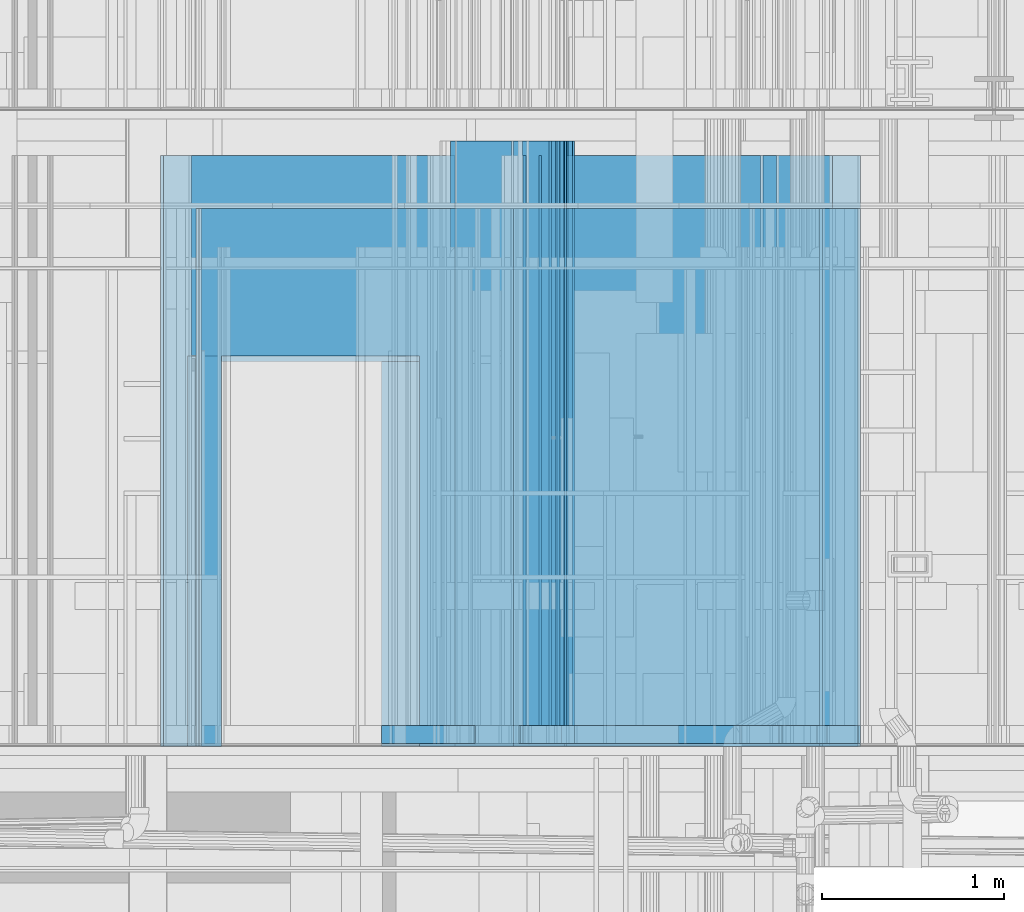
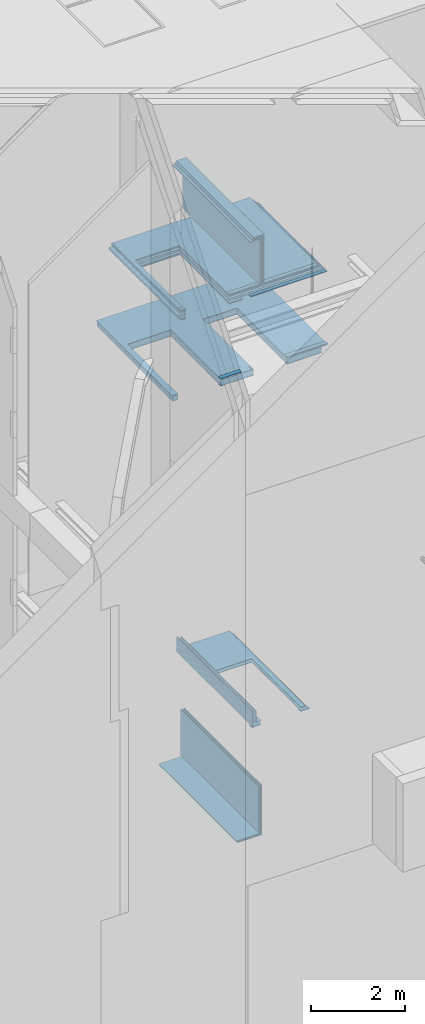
# One storey, part 68 of 583: 39 building element parts, 7 openings, 8 elements without a shape of their own.
"""IFC2X3 building model written with IfcOpenShell, lengths in metres."""

from ifc_helpers import new_model, entity, si_unit, converted_unit, derived_unit, money_unit, direction, frame, frame_2d, origin_with_axes, place, context, subcontext, project, spatial, polyline, rectangle, outline, extrude, material, type_object, element, aggregate, save


model = new_model("IFC2X3")

# Units and contexts
model_context = context("Model", 3, precision=1e-05, world=origin_with_axes(), true_north=direction((0.0, 1.0)))
body_context = subcontext(model_context, "Body", "Model", "MODEL_VIEW", scale=1.0)
ifc_project = project(units=[si_unit("LENGTHUNIT", "METRE"), si_unit("AREAUNIT", "SQUARE_METRE"), si_unit("VOLUMEUNIT", "CUBIC_METRE"), si_unit("ABSORBEDDOSEUNIT", "GRAY"), si_unit("AMOUNTOFSUBSTANCEUNIT", "MOLE"), si_unit("DOSEEQUIVALENTUNIT", "SIEVERT"), si_unit("ELECTRICCAPACITANCEUNIT", "FARAD"), si_unit("ELECTRICCHARGEUNIT", "COULOMB"), si_unit("ELECTRICCONDUCTANCEUNIT", "SIEMENS"), si_unit("ELECTRICCURRENTUNIT", "AMPERE"), si_unit("ELECTRICRESISTANCEUNIT", "OHM"), si_unit("ELECTRICVOLTAGEUNIT", "VOLT"), si_unit("ENERGYUNIT", "JOULE"), si_unit("FORCEUNIT", "NEWTON"), si_unit("FREQUENCYUNIT", "HERTZ"), si_unit("ILLUMINANCEUNIT", "LUX"), si_unit("INDUCTANCEUNIT", "HENRY"), si_unit("LUMINOUSFLUXUNIT", "LUMEN"), si_unit("LUMINOUSINTENSITYUNIT", "CANDELA"), si_unit("MAGNETICFLUXDENSITYUNIT", "TESLA"), si_unit("MAGNETICFLUXUNIT", "WEBER"), si_unit("MASSUNIT", "GRAM"), converted_unit("PLANEANGLEUNIT", "degree", entity("IfcReal", 0.0174532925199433), si_unit("PLANEANGLEUNIT", "RADIAN"), dimensions=[0, 0, 0, 0, 0, 0, 0]), si_unit("POWERUNIT", "WATT"), si_unit("PRESSUREUNIT", "PASCAL"), si_unit("RADIOACTIVITYUNIT", "BECQUEREL"), si_unit("SOLIDANGLEUNIT", "STERADIAN"), si_unit("THERMODYNAMICTEMPERATUREUNIT", "KELVIN"), si_unit("TIMEUNIT", "SECOND"), derived_unit("ACCELERATIONUNIT", [(si_unit("LENGTHUNIT", "METRE"), 1), (si_unit("TIMEUNIT", "SECOND"), -2)]), derived_unit("ANGULARVELOCITYUNIT", [(converted_unit("PLANEANGLEUNIT", "degree", entity("IfcReal", 0.0174532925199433), si_unit("PLANEANGLEUNIT", "RADIAN"), dimensions=[0, 0, 0, 0, 0, 0, 0]), 1), (si_unit("TIMEUNIT", "SECOND"), -1)]), derived_unit("CURVATUREUNIT", [(converted_unit("PLANEANGLEUNIT", "degree", entity("IfcReal", 0.0174532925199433), si_unit("PLANEANGLEUNIT", "RADIAN"), dimensions=[0, 0, 0, 0, 0, 0, 0]), 1), (si_unit("LENGTHUNIT", "METRE"), -1)]), derived_unit("DYNAMICVISCOSITYUNIT", [(si_unit("PRESSUREUNIT", "PASCAL"), 1), (si_unit("TIMEUNIT", "SECOND"), 1)]), derived_unit("HEATFLUXDENSITYUNIT", [(si_unit("POWERUNIT", "WATT"), 1), (si_unit("LENGTHUNIT", "METRE"), -2)]), derived_unit("HEATINGVALUEUNIT", [(si_unit("ENERGYUNIT", "JOULE"), 1), (si_unit("MASSUNIT", "GRAM"), -1)]), derived_unit("INTEGERCOUNTRATEUNIT", [(si_unit("TIMEUNIT", "SECOND"), -1)]), derived_unit("IONCONCENTRATIONUNIT", [(si_unit("MASSUNIT", "GRAM"), 1), (si_unit("VOLUMEUNIT", "CUBIC_METRE"), -1)]), derived_unit("ISOTHERMALMOISTURECAPACITYUNIT", [(si_unit("VOLUMEUNIT", "CUBIC_METRE"), 1), (si_unit("MASSUNIT", "GRAM"), -1)]), derived_unit("KINEMATICVISCOSITYUNIT", [(si_unit("AREAUNIT", "SQUARE_METRE"), 1), (si_unit("TIMEUNIT", "SECOND"), -1)]), derived_unit("LINEARFORCEUNIT", [(si_unit("FORCEUNIT", "NEWTON"), 1), (si_unit("LENGTHUNIT", "METRE"), -1)]), derived_unit("LINEARMOMENTUNIT", [(si_unit("FORCEUNIT", "NEWTON"), 1), (si_unit("LENGTHUNIT", "METRE"), -1)]), derived_unit("LINEARSTIFFNESSUNIT", [(si_unit("FORCEUNIT", "NEWTON"), 1), (si_unit("LENGTHUNIT", "METRE"), -1)]), derived_unit("LINEARVELOCITYUNIT", [(si_unit("LENGTHUNIT", "METRE"), 1), (si_unit("TIMEUNIT", "SECOND"), -1)]), derived_unit("LUMINOUSINTENSITYDISTRIBUTIONUNIT", [(si_unit("LUMINOUSINTENSITYUNIT", "CANDELA"), 1), (si_unit("LUMINOUSFLUXUNIT", "LUMEN"), -1)]), derived_unit("MASSDENSITYUNIT", [(si_unit("MASSUNIT", "GRAM"), 1), (si_unit("VOLUMEUNIT", "CUBIC_METRE"), -1)]), derived_unit("MASSFLOWRATEUNIT", [(si_unit("MASSUNIT", "GRAM"), 1), (si_unit("TIMEUNIT", "SECOND"), -1)]), derived_unit("MASSPERLENGTHUNIT", [(si_unit("MASSUNIT", "GRAM"), 1), (si_unit("LENGTHUNIT", "METRE"), -1)]), derived_unit("MODULUSOFELASTICITYUNIT", [(si_unit("FORCEUNIT", "NEWTON"), 1), (si_unit("AREAUNIT", "SQUARE_METRE"), -1)]), derived_unit("MODULUSOFLINEARSUBGRADEREACTIONUNIT", [(si_unit("FORCEUNIT", "NEWTON"), 1), (si_unit("LENGTHUNIT", "METRE"), -2)]), derived_unit("MODULUSOFROTATIONALSUBGRADEREACTIONUNIT", [(si_unit("FORCEUNIT", "NEWTON"), 1), (si_unit("LENGTHUNIT", "METRE"), 1)]), derived_unit("MODULUSOFSUBGRADEREACTIONUNIT", [(si_unit("FORCEUNIT", "NEWTON"), 1), (si_unit("VOLUMEUNIT", "CUBIC_METRE"), -1)]), derived_unit("MOISTUREDIFFUSIVITYUNIT", [(si_unit("VOLUMEUNIT", "CUBIC_METRE"), 1), (si_unit("TIMEUNIT", "SECOND"), -1)]), derived_unit("MOLECULARWEIGHTUNIT", [(si_unit("MASSUNIT", "GRAM"), 1), (si_unit("AMOUNTOFSUBSTANCEUNIT", "MOLE"), -1)]), derived_unit("PLANARFORCEUNIT", [(si_unit("FORCEUNIT", "NEWTON"), 1), (si_unit("LENGTHUNIT", "METRE"), -2)]), derived_unit("ROTATIONALFREQUENCYUNIT", [(si_unit("TIMEUNIT", "SECOND"), -1)]), derived_unit("ROTATIONALMASSUNIT", [(si_unit("MASSUNIT", "GRAM"), 1), (si_unit("LENGTHUNIT", "METRE"), 2)]), derived_unit("ROTATIONALSTIFFNESSUNIT", [(si_unit("FORCEUNIT", "NEWTON"), 1), (si_unit("LENGTHUNIT", "METRE"), 1), (converted_unit("PLANEANGLEUNIT", "degree", entity("IfcReal", 0.0174532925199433), si_unit("PLANEANGLEUNIT", "RADIAN"), dimensions=[0, 0, 0, 0, 0, 0, 0]), -1)]), derived_unit("SECTIONAREAINTEGRALUNIT", [(si_unit("LENGTHUNIT", "METRE"), 5)]), derived_unit("SECTIONMODULUSUNIT", [(si_unit("LENGTHUNIT", "METRE"), 3)]), derived_unit("SHEARMODULUSUNIT", [(si_unit("FORCEUNIT", "NEWTON"), 1), (si_unit("AREAUNIT", "SQUARE_METRE"), -1)]), derived_unit("SOUNDPOWERUNIT", [(si_unit("ENERGYUNIT", "JOULE"), 1), (si_unit("TIMEUNIT", "SECOND"), -1)]), derived_unit("SPECIFICHEATCAPACITYUNIT", [(si_unit("FORCEUNIT", "NEWTON"), 1), (si_unit("MASSUNIT", "GRAM"), -1), (si_unit("THERMODYNAMICTEMPERATUREUNIT", "KELVIN"), -1)]), derived_unit("TEMPERATUREGRADIENTUNIT", [(si_unit("THERMODYNAMICTEMPERATUREUNIT", "KELVIN"), 1), (si_unit("LENGTHUNIT", "METRE"), -1)]), derived_unit("THERMALADMITTANCEUNIT", [(si_unit("POWERUNIT", "WATT"), 1), (si_unit("AREAUNIT", "SQUARE_METRE"), -1), (si_unit("THERMODYNAMICTEMPERATUREUNIT", "KELVIN"), -1)]), derived_unit("THERMALCONDUCTANCEUNIT", [(si_unit("POWERUNIT", "WATT"), 1), (si_unit("LENGTHUNIT", "METRE"), -1), (si_unit("THERMODYNAMICTEMPERATUREUNIT", "KELVIN"), -1)]), derived_unit("THERMALEXPANSIONCOEFFICIENTUNIT", [(si_unit("THERMODYNAMICTEMPERATUREUNIT", "KELVIN"), -1)]), derived_unit("THERMALRESISTANCEUNIT", [(si_unit("AREAUNIT", "SQUARE_METRE"), 1), (si_unit("POWERUNIT", "WATT"), -1)]), derived_unit("THERMALTRANSMITTANCEUNIT", [(si_unit("POWERUNIT", "WATT"), 1), (si_unit("AREAUNIT", "SQUARE_METRE"), -1), (si_unit("THERMODYNAMICTEMPERATUREUNIT", "KELVIN"), -1)]), derived_unit("TORQUEUNIT", [(si_unit("FORCEUNIT", "NEWTON"), 1), (si_unit("LENGTHUNIT", "METRE"), 1)]), derived_unit("VAPORPERMEABILITYUNIT", [(si_unit("MASSUNIT", "GRAM"), 1), (si_unit("TIMEUNIT", "SECOND"), -1)]), derived_unit("VOLUMETRICFLOWRATEUNIT", [(si_unit("VOLUMEUNIT", "CUBIC_METRE"), 1), (si_unit("TIMEUNIT", "SECOND"), -1)]), derived_unit("WARPINGCONSTANTUNIT", [(si_unit("LENGTHUNIT", "METRE"), 6)]), derived_unit("WARPINGMOMENTUNIT", [(si_unit("FORCEUNIT", "NEWTON"), 1), (si_unit("LENGTHUNIT", "METRE"), 2)]), money_unit("GBP")], contexts=[model_context])

# Site, building, storey
site_placement = place(None, origin_with_axes())
site = spatial("IfcSite", under=ifc_project, at=site_placement, Name="Site", CompositionType="ELEMENT")
building_placement = place(site_placement, origin_with_axes())
building = spatial("IfcBuilding", under=site, at=building_placement, Name="Building01", CompositionType="ELEMENT")
storey_placement = place(building_placement, frame((0.0, 0.0, 20.78), z_axis=(0.0, 0.0, 1.0), x_axis=(1.0, 0.0, 0.0)))
storey = spatial("IfcBuildingStorey", under=building, at=storey_placement, Name="RL", CompositionType="ELEMENT", Elevation=20.78)

# Wall, openings, building element parts
wall_type_1 = type_object("IfcWallType", Name="SHE_A-Walls_Type03a_BlockworkWall_170mm", PredefinedType="NOTDEFINED")
wall_1_placement = place(storey_placement, frame((8.665, 5.15, -2.935), z_axis=(0.0, 1.0, 0.0), x_axis=(-1.0, 0.0, 0.0)))
wall_1 = element("IfcWall", 1, at=wall_1_placement, inside=storey, type_object=wall_type_1, Name="4B", ObjectType="SHE_A-Walls_Type03a_BlockworkWall_170mm")
opening_1_placement = place(wall_1_placement, frame((0.88612, -0.095, 0.0), z_axis=(0.0, 0.0, 1.0), x_axis=(1.0, 0.0, 0.0)))
element("IfcOpeningElement", 2, at=opening_1_placement, cuts=wall_1, Name="Opening", ObjectType="Opening", context=body_context, shape_type="SweptSolid", body=[
    extrude(rectangle(XDim=0.75, YDim=2.142, at=frame_2d((0.375, 1.071), x_axis=(-1.0, 0.0))), frame((0.0, 5.507577, 0.0), z_axis=(0.0, -1.0, 0.0), x_axis=(1.0, 0.0, 0.0)), (0.0, 0.0, 1.0), 11.015153),
])
opening_2_placement = place(wall_1_placement, frame((2.554262, -0.095, 0.0), z_axis=(0.0, 0.0, 1.0), x_axis=(1.0, 0.0, 0.0)))
element("IfcOpeningElement", 3, at=opening_2_placement, cuts=wall_1, Name="Opening", ObjectType="Opening", context=body_context, shape_type="SweptSolid", body=[
    extrude(rectangle(XDim=0.984, YDim=2.142, at=frame_2d((0.492, 1.071), x_axis=(-1.0, 0.0))), frame((0.0, 5.507577, 0.0), z_axis=(0.0, -1.0, 0.0), x_axis=(1.0, 0.0, 0.0)), (0.0, 0.0, 1.0), 11.015153),
])
opening_3_placement = place(wall_1_placement, frame((2.473, -0.015, 0.0), z_axis=(0.0, 0.0, 1.0), x_axis=(1.0, 0.0, 0.0)))
element("IfcOpeningElement", 4, at=opening_3_placement, cuts=wall_1, Name="Opening", ObjectType="Opening", context=body_context, shape_type="SweptSolid", body=[
    extrude(rectangle(XDim=0.984, YDim=2.142, at=frame_2d((0.492, 1.071), x_axis=(-1.0, 0.0))), frame((0.0, 5.387814, 0.0), z_axis=(0.0, -1.0, 0.0), x_axis=(1.0, 0.0, 0.0)), (0.0, 0.0, 1.0), 10.775627),
])
opening_4_placement = place(wall_1_placement, frame((0.84412, -0.015, 0.0), z_axis=(0.0, 0.0, 1.0), x_axis=(1.0, 0.0, 0.0)))
element("IfcOpeningElement", 5, at=opening_4_placement, cuts=wall_1, Name="Opening", ObjectType="Opening", context=body_context, shape_type="SweptSolid", body=[
    extrude(rectangle(XDim=2.142, YDim=0.834, at=frame_2d((0.417, 1.071), x_axis=(0.0, -1.0))), frame((0.0, 5.387814, 0.0), z_axis=(0.0, -1.0, 0.0), x_axis=(1.0, 0.0, 0.0)), (0.0, 0.0, 1.0), 10.775627),
])
ifc_material_1 = material(Name="A_BSUK_WallsInternal_Block")
placement_1 = place(wall_1_placement, origin_with_axes())
building_element_part_1 = element("IfcBuildingElementPart", 6, at=placement_1, material=ifc_material_1, Name="1", context=body_context, shape_type="SweptSolid", body=[
    extrude(rectangle(XDim=3.67, YDim=0.14, at=frame_2d((1.835, 0.07), x_axis=(-1.0, 0.0))), origin_with_axes(), (0.0, 0.0, 1.0), 3.24),
])
ifc_material_2 = material(Name="A_BSUK_Walls_Timber")
building_element_part_2 = element("IfcBuildingElementPart", 7, at=placement_1, material=ifc_material_2, Name="2", context=body_context, shape_type="SweptSolid", body=[
    extrude(rectangle(XDim=1.89, YDim=0.015, at=frame_2d((0.775, 0.1625), x_axis=(-1.0, 0.0))), frame((0.0, 0.0, 0.015), z_axis=(0.0, 0.0, 1.0), x_axis=(1.0, 0.0, 0.0)), (0.0, 0.0, 1.0), 0.1),
])
ifc_material_3 = material(Name="A_BSUK_WallInternal_Finishes_Plaster")
building_element_part_3 = element("IfcBuildingElementPart", 8, at=placement_1, material=ifc_material_3, Name="3", context=body_context, shape_type="SweptSolid", body=[
    extrude(rectangle(XDim=3.84, YDim=0.015, at=frame_2d((1.765, 0.1475), x_axis=(-1.0, 0.0))), origin_with_axes(), (0.0, 0.0, 1.0), 3.24),
])
ifc_material_4 = material(Name="A_BSUK_WallInternal_Finishes_Plasterboard")
building_element_part_4 = element("IfcBuildingElementPart", 9, at=placement_1, material=ifc_material_4, Name="4", context=body_context, shape_type="SweptSolid", body=[
    extrude(outline(polyline([(2.205, 0.0), (0.0, 0.0), (0.0, -0.015), (2.19, -0.015), (2.205, 0.0)])), origin_with_axes(), (0.0, 0.0, 1.0), 3.24),
])
building_element_part_5 = element("IfcBuildingElementPart", 10, at=placement_1, material=ifc_material_2, Name="5", context=body_context, shape_type="SweptSolid", body=[
    extrude(outline(polyline([(2.205, -0.015), (0.03, -0.015), (0.03, -0.03), (2.19, -0.03), (2.205, -0.015)])), frame((0.0, 0.0, 0.015), z_axis=(0.0, 0.0, 1.0), x_axis=(1.0, 0.0, 0.0)), (0.0, 0.0, 1.0), 0.1),
])
building_element_part_6 = element("IfcBuildingElementPart", 11, at=placement_1, material=ifc_material_4, Name="6", context=body_context, shape_type="SweptSolid", body=[
    extrude(outline(polyline([(3.515, 0.0), (2.19, 0.0), (2.205, -0.015), (3.515, -0.015), (3.515, 0.0)])), origin_with_axes(), (0.0, 0.0, 1.0), 3.24),
])
building_element_part_7 = element("IfcBuildingElementPart", 12, at=placement_1, material=ifc_material_2, Name="7", context=body_context, shape_type="SweptSolid", body=[
    extrude(outline(polyline([(3.445, 0.17), (1.975, 0.17), (1.975, 0.155), (3.46, 0.155), (3.445, 0.17)])), frame((0.0, 0.0, 0.015), z_axis=(0.0, 0.0, 1.0), x_axis=(1.0, 0.0, 0.0)), (0.0, 0.0, 1.0), 0.1),
])
building_element_part_8 = element("IfcBuildingElementPart", 13, at=placement_1, material=ifc_material_2, Name="8", context=body_context, shape_type="SweptSolid", body=[
    extrude(outline(polyline([(3.445, 0.17), (1.96, 0.17), (1.96, 0.155), (3.46, 0.155), (3.445, 0.17)])), frame((0.0, 0.0, 0.015), z_axis=(0.0, 0.0, 1.0), x_axis=(1.0, 0.0, 0.0)), (0.0, 0.0, 1.0), 0.1),
])
building_element_part_9 = element("IfcBuildingElementPart", 14, at=placement_1, material=ifc_material_2, Name="9", context=body_context, shape_type="SweptSolid", body=[
    extrude(outline(polyline([(3.445, 0.17), (1.96, 0.17), (1.96, 0.155), (3.46, 0.155), (3.445, 0.17)])), frame((0.0, 0.0, 0.015), z_axis=(0.0, 0.0, 1.0), x_axis=(1.0, 0.0, 0.0)), (0.0, 0.0, 1.0), 0.1),
])
building_element_part_10 = element("IfcBuildingElementPart", 15, at=placement_1, material=ifc_material_2, Name="10", context=body_context, shape_type="SweptSolid", body=[
    extrude(rectangle(XDim=1.085, YDim=0.015, at=frame_2d((2.9575, -0.0225), x_axis=(-1.0, 0.0))), frame((0.0, 0.0, 0.015), z_axis=(0.0, 0.0, 1.0), x_axis=(1.0, 0.0, 0.0)), (0.0, 0.0, 1.0), 0.1),
])
aggregate(wall_1, [building_element_part_1, building_element_part_2, building_element_part_3, building_element_part_4, building_element_part_5, building_element_part_6, building_element_part_7, building_element_part_8, building_element_part_9, building_element_part_10])

wall_type_2 = type_object("IfcWallType", Name="SHE_A-Walls_Type01c_Partywall_225mm_twin_tall", PredefinedType="NOTDEFINED")
wall_2_placement = place(storey_placement, frame((8.732, 5.15, -0.794339), z_axis=(0.0, 1.0, 0.0), x_axis=(-1.0, 0.0, 0.0)))
wall_2 = element("IfcWall", 16, at=wall_2_placement, inside=storey, type_object=wall_type_2, Name="1C", ObjectType="SHE_A-Walls_Type01c_Partywall_225mm_twin_tall")
opening_5_placement = place(wall_2_placement, frame((2.332853, -0.313, -0.03), z_axis=(0.0, 0.0, 1.0), x_axis=(1.0, 0.0, 0.0)))
element("IfcOpeningElement", 17, at=opening_5_placement, cuts=wall_2, Name="Opening", ObjectType="Opening", context=body_context, shape_type="SweptSolid", body=[
    extrude(rectangle(XDim=1.084, YDim=2.142, at=frame_2d((-0.542, 1.071), x_axis=(1.0, 0.0))), frame((0.0, -0.5445, 0.0), z_axis=(0.0, 1.0, 0.0), x_axis=(-1.0, 0.0, 0.0)), (0.0, 0.0, 1.0), 1.089),
])
opening_6_placement = place(wall_2_placement, frame((2.332853, 0.137, 0.0), z_axis=(0.0, 0.0, 1.0), x_axis=(1.0, 0.0, 0.0)))
element("IfcOpeningElement", 18, at=opening_6_placement, cuts=wall_2, Name="Opening", ObjectType="Opening", context=body_context, shape_type="SweptSolid", body=[
    extrude(rectangle(XDim=2.142, YDim=1.084, at=frame_2d((-0.542, 1.071), x_axis=(0.0, -1.0))), frame((0.0, -0.2055, 0.0), z_axis=(0.0, 1.0, 0.0), x_axis=(-1.0, 0.0, 0.0)), (0.0, 0.0, 1.0), 0.411),
])
ifc_material_5 = material(Name="A_BSUK_Insulation")
placement_2 = place(wall_2_placement, origin_with_axes())
building_element_part_11 = element("IfcBuildingElementPart", 19, at=placement_2, material=ifc_material_5, Name="1", context=body_context, shape_type="SweptSolid", body=[
    extrude(outline(polyline([(3.614, 0.05), (0.05, 0.05), (0.0, 0.0), (3.614, 0.0), (3.614, 0.05)])), origin_with_axes(), (0.0, 0.0, 1.0), 2.95),
])
building_element_part_12 = element("IfcBuildingElementPart", 20, at=placement_2, material=ifc_material_2, Name="2", context=body_context, shape_type="SweptSolid", body=[
    extrude(rectangle(XDim=1.33, YDim=0.015, at=frame_2d((0.817, 0.1445), x_axis=(-1.0, 0.0))), frame((0.0, 0.0, 0.015), z_axis=(0.0, 0.0, 1.0), x_axis=(1.0, 0.0, 0.0)), (0.0, 0.0, 1.0), 0.1),
])
building_element_part_13 = element("IfcBuildingElementPart", 21, at=placement_2, material=ifc_material_4, Name="3", context=body_context, shape_type="SweptSolid", body=[
    extrude(rectangle(XDim=3.405, YDim=0.015, at=frame_2d((1.8245, 0.1295), x_axis=(-1.0, 0.0))), origin_with_axes(), (0.0, 0.0, 1.0), 2.95),
])
building_element_part_14 = element("IfcBuildingElementPart", 22, at=placement_2, material=ifc_material_4, Name="4", context=body_context, shape_type="SweptSolid", body=[
    extrude(outline(polyline([(3.557, 0.122), (0.122, 0.122), (0.107, 0.107), (3.557, 0.107), (3.557, 0.122)])), origin_with_axes(), (0.0, 0.0, 1.0), 2.95),
])
building_element_part_15 = element("IfcBuildingElementPart", 23, at=placement_2, material=ifc_material_4, Name="5", context=body_context, shape_type="SweptSolid", body=[
    extrude(rectangle(XDim=1.89, YDim=0.015, at=frame_2d((0.887, -0.0655), x_axis=(-1.0, 0.0))), origin_with_axes(), (0.0, 0.0, 1.0), 2.95),
])
building_element_part_16 = element("IfcBuildingElementPart", 24, at=placement_2, material=ifc_material_4, Name="6", context=body_context, shape_type="SweptSolid", body=[
    extrude(rectangle(XDim=1.89, YDim=0.015, at=frame_2d((0.872, -0.0805), x_axis=(-1.0, 0.0))), origin_with_axes(), (0.0, 0.0, 1.0), 2.95),
])
building_element_part_17 = element("IfcBuildingElementPart", 25, at=placement_2, material=ifc_material_2, Name="7", context=body_context, shape_type="SweptSolid", body=[
    extrude(outline(polyline([(1.787, -0.088), (-0.073, -0.088), (-0.088, -0.103), (1.787, -0.103), (1.787, -0.088)])), frame((0.0, 0.0, 0.015), z_axis=(0.0, 0.0, 1.0), x_axis=(1.0, 0.0, 0.0)), (0.0, 0.0, 1.0), 0.1),
])
building_element_part_18 = element("IfcBuildingElementPart", 26, at=placement_2, material=ifc_material_2, Name="8", context=body_context, shape_type="SweptSolid", body=[
    extrude(outline(polyline([(1.802, -0.088), (-0.073, -0.088), (-0.088, -0.103), (1.802, -0.103), (1.802, -0.088)])), frame((0.0, 0.0, 0.015), z_axis=(0.0, 0.0, 1.0), x_axis=(1.0, 0.0, 0.0)), (0.0, 0.0, 1.0), 0.1),
])
building_element_part_19 = element("IfcBuildingElementPart", 27, at=placement_2, material=ifc_material_4, Name="9", context=body_context, shape_type="SweptSolid", body=[
    extrude(outline(polyline([(0.122, -0.073), (-0.088, -0.073), (-0.088, -0.088), (0.137, -0.088), (0.122, -0.073)])), origin_with_axes(), (0.0, 0.0, 1.0), 2.95),
])
building_element_part_20 = element("IfcBuildingElementPart", 28, at=placement_2, material=ifc_material_4, Name="10", context=body_context, shape_type="SweptSolid", body=[
    extrude(outline(polyline([(0.122, -0.058), (-0.073, -0.058), (-0.073, -0.073), (0.137, -0.073), (0.122, -0.058)])), origin_with_axes(), (0.0, 0.0, 1.0), 2.95),
])
building_element_part_21 = element("IfcBuildingElementPart", 29, at=placement_2, material=ifc_material_2, Name="11", context=body_context, shape_type="SweptSolid", body=[
    extrude(rectangle(XDim=1.935, YDim=0.015, at=frame_2d((2.5595, 0.1445), x_axis=(-1.0, 0.0))), frame((0.0, 0.0, 0.015), z_axis=(0.0, 0.0, 1.0), x_axis=(1.0, 0.0, 0.0)), (0.0, 0.0, 1.0), 0.1),
])
building_element_part_22 = element("IfcBuildingElementPart", 30, at=placement_2, material=ifc_material_4, Name="12", context=body_context, shape_type="SweptSolid", body=[
    extrude(rectangle(XDim=1.515, YDim=0.015, at=frame_2d((2.7695, -0.0805), x_axis=(-1.0, 0.0))), origin_with_axes(), (0.0, 0.0, 1.0), 2.95),
])
building_element_part_23 = element("IfcBuildingElementPart", 31, at=placement_2, material=ifc_material_4, Name="13", context=body_context, shape_type="SweptSolid", body=[
    extrude(rectangle(XDim=1.53, YDim=0.015, at=frame_2d((2.777, -0.0655), x_axis=(-1.0, 0.0))), origin_with_axes(), (0.0, 0.0, 1.0), 2.95),
])
aggregate(wall_2, [building_element_part_11, building_element_part_12, building_element_part_13, building_element_part_14, building_element_part_15, building_element_part_16, building_element_part_17, building_element_part_18, building_element_part_19, building_element_part_20, building_element_part_21, building_element_part_22, building_element_part_23])

# Wall, building element parts
wall_type_3 = type_object("IfcWallType", Name="SHE_A-Walls_Type04c_RiserWall_102mm_tall", PredefinedType="NOTDEFINED")
wall_3_placement = place(storey_placement, frame((6.968405, 5.165, -11.72), z_axis=(0.0, 1.0, 0.0), x_axis=(0.0, 0.0, -1.0)))
wall_3 = element("IfcWall", 32, at=wall_3_placement, inside=storey, type_object=wall_type_3, Name="4C", ObjectType="SHE_A-Walls_Type04c_RiserWall_102mm_tall")
placement_3 = place(wall_3_placement, origin_with_axes())
building_element_part_24 = element("IfcBuildingElementPart", 33, at=placement_3, material=ifc_material_4, Name="2", context=body_context, shape_type="SweptSolid", body=[
    extrude(outline(polyline([(0.402, 0.0), (0.0, 0.0), (0.0, -0.015), (0.387, -0.015), (0.402, 0.0)])), frame((0.0, 0.0, -0.015), z_axis=(0.0, 0.0, 1.0), x_axis=(1.0, 0.0, 0.0)), (0.0, 0.0, 1.0), 3.24),
])
building_element_part_25 = element("IfcBuildingElementPart", 34, at=placement_3, material=ifc_material_4, Name="3", context=body_context, shape_type="SweptSolid", body=[
    extrude(outline(polyline([(0.315, -0.087), (0.015, -0.087), (0.015, -0.102), (0.3, -0.102), (0.315, -0.087)])), frame((0.0, 0.0, -0.015), z_axis=(0.0, 0.0, 1.0), x_axis=(1.0, 0.0, 0.0)), (0.0, 0.0, 1.0), 3.24),
])
aggregate(wall_3, [building_element_part_24, building_element_part_25])

# Wall, opening, building element parts
wall_4_placement = place(storey_placement, frame((6.968405, 5.165, -12.122), z_axis=(0.0, 1.0, 0.0), x_axis=(1.0, 0.0, 0.0)))
wall_4 = element("IfcWall", 35, at=wall_4_placement, inside=storey, type_object=wall_type_3, Name="4C", ObjectType="SHE_A-Walls_Type04c_RiserWall_102mm_tall")
opening_7_placement = place(wall_4_placement, frame((0.21, 0.0, -0.015), z_axis=(0.0, 0.0, 1.0), x_axis=(1.0, 0.0, 0.0)))
element("IfcOpeningElement", 36, at=opening_7_placement, cuts=wall_4, Name="Opening", ObjectType="Opening", context=body_context, shape_type="SweptSolid", body=[
    extrude(rectangle(XDim=2.1, YDim=0.984, at=frame_2d((-0.492, 1.05), x_axis=(0.0, -1.0))), frame((0.0, -2.797242, 0.0), z_axis=(0.0, 1.0, 0.0), x_axis=(-1.0, 0.0, 0.0)), (0.0, 0.0, 1.0), 5.594484),
])
placement_4 = place(wall_4_placement, origin_with_axes())
building_element_part_26 = element("IfcBuildingElementPart", 37, at=placement_4, material=ifc_material_2, Name="1", context=body_context, shape_type="SweptSolid", body=[
    extrude(outline(polyline([(1.419, 0.015), (-0.015, 0.015), (0.0, 0.0), (1.404, 0.0), (1.419, 0.015)])), origin_with_axes(), (0.0, 0.0, 1.0), 0.1),
])
building_element_part_27 = element("IfcBuildingElementPart", 38, at=placement_4, material=ifc_material_4, Name="2", context=body_context, shape_type="SweptSolid", body=[
    extrude(outline(polyline([(1.389, 0.0), (0.0, 0.0), (0.015, -0.015), (1.389, -0.015), (1.389, 0.0)])), frame((0.0, 0.0, -0.015), z_axis=(0.0, 0.0, 1.0), x_axis=(1.0, 0.0, 0.0)), (0.0, 0.0, 1.0), 3.24),
])
building_element_part_28 = element("IfcBuildingElementPart", 39, at=placement_4, material=ifc_material_4, Name="3", context=body_context, shape_type="SweptSolid", body=[
    extrude(outline(polyline([(1.317, -0.087), (0.087, -0.087), (0.102, -0.102), (1.302, -0.102), (1.317, -0.087)])), frame((0.0, 0.0, -0.015), z_axis=(0.0, 0.0, 1.0), x_axis=(1.0, 0.0, 0.0)), (0.0, 0.0, 1.0), 3.24),
])
aggregate(wall_4, [building_element_part_26, building_element_part_27, building_element_part_28])

# Wall, building element parts
wall_type_4 = type_object("IfcWallType", Name="SHE_A-Walls_Type05a_Partition_95mm_tall", PredefinedType="NOTDEFINED")
wall_5_placement = place(storey_placement, frame((6.571475, 5.15, -14.975331), z_axis=(0.0, 1.0, 0.0), x_axis=(1.0, 0.0, 0.0)))
wall_5 = element("IfcWall", 40, at=wall_5_placement, inside=storey, type_object=wall_type_4, Name="5A", ObjectType="SHE_A-Walls_Type05a_Partition_95mm_tall")
placement_5 = place(wall_5_placement, origin_with_axes())
building_element_part_29 = element("IfcBuildingElementPart", 41, at=placement_5, material=ifc_material_5, Name="1", context=body_context, shape_type="SweptSolid", body=[
    extrude(outline(polyline([(0.6, 0.0), (0.0, 0.0), (0.0, -0.025), (0.575, -0.025), (0.6, 0.0)])), origin_with_axes(), (0.0, 0.0, 1.0), 3.32),
])
building_element_part_30 = element("IfcBuildingElementPart", 42, at=placement_5, material=ifc_material_4, Name="5", context=body_context, shape_type="SweptSolid", body=[
    extrude(outline(polyline([(0.635, 0.035), (0.035, 0.035), (0.023, 0.023), (0.623, 0.023), (0.635, 0.035)])), origin_with_axes(), (0.0, 0.0, 1.0), 3.32),
])
aggregate(wall_5, [building_element_part_29, building_element_part_30])

wall_6_placement = place(storey_placement, frame((6.965, 5.15, 0.602661), z_axis=(0.0, 1.0, 0.0), x_axis=(1.0, 0.0, 0.0)))
wall_6 = element("IfcWall", 43, at=wall_6_placement, inside=storey, type_object=wall_type_4, Name="5A", ObjectType="SHE_A-Walls_Type05a_Partition_95mm_tall")
placement_6 = place(wall_6_placement, origin_with_axes())
building_element_part_31 = element("IfcBuildingElementPart", 44, at=placement_6, material=ifc_material_5, Name="1", context=body_context, shape_type="SweptSolid", body=[
    extrude(outline(polyline([(0.225, 0.025), (0.0, 0.025), (0.0, 0.0), (0.25, 0.0), (0.225, 0.025)])), origin_with_axes(), (0.0, 0.0, 1.0), 3.32),
])
building_element_part_32 = element("IfcBuildingElementPart", 45, at=placement_6, material=ifc_material_4, Name="4", context=body_context, shape_type="SweptSolid", body=[
    extrude(outline(polyline([(0.19, 0.06), (-0.06, 0.06), (-0.048, 0.048), (0.202, 0.048), (0.19, 0.06)])), origin_with_axes(), (0.0, 0.0, 1.0), 3.32),
])
building_element_part_33 = element("IfcBuildingElementPart", 46, at=placement_6, material=ifc_material_4, Name="5", context=body_context, shape_type="SweptSolid", body=[
    extrude(outline(polyline([(0.273, -0.023), (0.023, -0.023), (0.035, -0.035), (0.285, -0.035), (0.273, -0.023)])), origin_with_axes(), (0.0, 0.0, 1.0), 3.32),
])
aggregate(wall_6, [building_element_part_31, building_element_part_32, building_element_part_33])

wall_7_placement = place(storey_placement, frame((7.215, 5.15, 0.602661), z_axis=(0.0, 1.0, 0.0), x_axis=(0.0, 0.0, -1.0)))
wall_7 = element("IfcWall", 47, at=wall_7_placement, inside=storey, type_object=wall_type_4, Name="5A", ObjectType="SHE_A-Walls_Type05a_Partition_95mm_tall")
placement_7 = place(wall_7_placement, origin_with_axes())
building_element_part_34 = element("IfcBuildingElementPart", 48, at=placement_7, material=ifc_material_5, Name="1", context=body_context, shape_type="SweptSolid", body=[
    extrude(outline(polyline([(1.26, 0.025), (0.025, 0.025), (0.0, 0.0), (1.26, 0.0), (1.26, 0.025)])), origin_with_axes(), (0.0, 0.0, 1.0), 3.32),
])
building_element_part_35 = element("IfcBuildingElementPart", 49, at=placement_7, material=ifc_material_4, Name="4", context=body_context, shape_type="SweptSolid", body=[
    extrude(outline(polyline([(1.26, 0.06), (0.06, 0.06), (0.048, 0.048), (1.26, 0.048), (1.26, 0.06)])), origin_with_axes(), (0.0, 0.0, 1.0), 3.32),
])
building_element_part_36 = element("IfcBuildingElementPart", 50, at=placement_7, material=ifc_material_4, Name="5", context=body_context, shape_type="SweptSolid", body=[
    extrude(outline(polyline([(1.26, -0.023), (-0.023, -0.023), (-0.035, -0.035), (1.26, -0.035), (1.26, -0.023)])), origin_with_axes(), (0.0, 0.0, 1.0), 3.32),
])
aggregate(wall_7, [building_element_part_34, building_element_part_35, building_element_part_36])

wall_8_placement = place(storey_placement, frame((7.171475, 5.15, -14.975331), z_axis=(0.0, 1.0, 0.0), x_axis=(0.0, 0.0, 1.0)))
wall_8 = element("IfcWall", 51, at=wall_8_placement, inside=storey, type_object=wall_type_4, Name="5A", ObjectType="SHE_A-Walls_Type05a_Partition_95mm_tall")
placement_8 = place(wall_8_placement, origin_with_axes())
building_element_part_37 = element("IfcBuildingElementPart", 52, at=placement_8, material=ifc_material_5, Name="1", context=body_context, shape_type="SweptSolid", body=[
    extrude(outline(polyline([(1.26, 0.0), (0.0, 0.0), (0.025, -0.025), (1.26, -0.025), (1.26, 0.0)])), origin_with_axes(), (0.0, 0.0, 1.0), 3.32),
])
building_element_part_38 = element("IfcBuildingElementPart", 53, at=placement_8, material=ifc_material_4, Name="4", context=body_context, shape_type="SweptSolid", body=[
    extrude(outline(polyline([(1.26, -0.048), (0.048, -0.048), (0.06, -0.06), (1.26, -0.06), (1.26, -0.048)])), origin_with_axes(), (0.0, 0.0, 1.0), 3.32),
])
building_element_part_39 = element("IfcBuildingElementPart", 54, at=placement_8, material=ifc_material_4, Name="5", context=body_context, shape_type="SweptSolid", body=[
    extrude(outline(polyline([(1.26, 0.035), (-0.035, 0.035), (-0.023, 0.023), (1.26, 0.023), (1.26, 0.035)])), origin_with_axes(), (0.0, 0.0, 1.0), 3.32),
])
aggregate(wall_8, [building_element_part_37, building_element_part_38, building_element_part_39])

save(model, "model.ifc")
